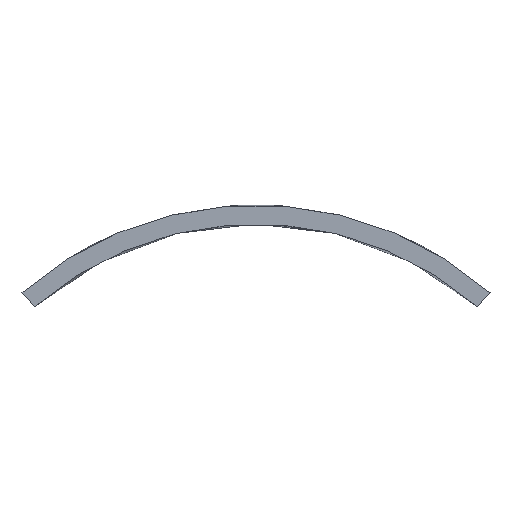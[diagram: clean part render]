
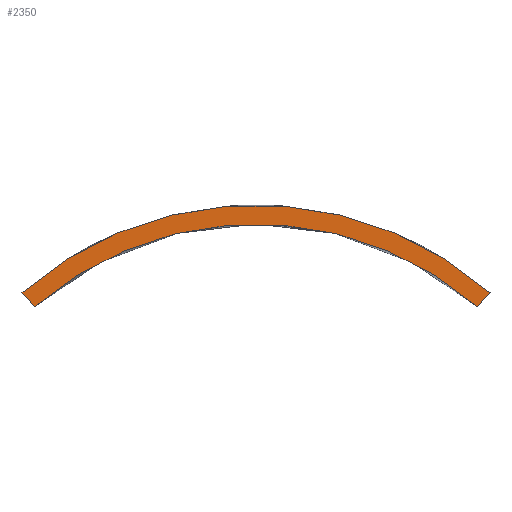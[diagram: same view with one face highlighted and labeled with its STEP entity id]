
A CAD part, left-side view. The second image highlights one B-rep face of the part: STEP entity #2350.
In plain terms, the highlighted planar face has unit normal (-1, 0, 0).
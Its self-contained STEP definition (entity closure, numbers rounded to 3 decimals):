
#21 = EDGE_CURVE('',#22,#24,#26,.T.);
#22 = VERTEX_POINT('',#23);
#23 = CARTESIAN_POINT('',(62.3,14.775,16.969));
#24 = VERTEX_POINT('',#25);
#25 = CARTESIAN_POINT('',(62.3,-14.775,16.969));
#26 = SURFACE_CURVE('',#27,(#32,#44),.PCURVE_S1.);
#27 = CIRCLE('',#28,22.5);
#28 = AXIS2_PLACEMENT_3D('',#29,#30,#31);
#29 = CARTESIAN_POINT('',(62.3,0.,0.));
#30 = DIRECTION('',(1.,0.,0.));
#31 = DIRECTION('',(-0.,1.,0.));
#32 = PCURVE('',#33,#38);
#33 = CYLINDRICAL_SURFACE('',#34,22.5);
#34 = AXIS2_PLACEMENT_3D('',#35,#36,#37);
#35 = CARTESIAN_POINT('',(47.,0.,0.));
#36 = DIRECTION('',(1.,0.,0.));
#37 = DIRECTION('',(-0.,1.,0.));
#38 = DEFINITIONAL_REPRESENTATION('',(#39),#43);
#39 = LINE('',#40,#41);
#40 = CARTESIAN_POINT('',(0.,15.3));
#41 = VECTOR('',#42,1.);
#42 = DIRECTION('',(1.,0.));
#43 = ( GEOMETRIC_REPRESENTATION_CONTEXT(2) 
PARAMETRIC_REPRESENTATION_CONTEXT() REPRESENTATION_CONTEXT('2D SPACE',''
  ) );
#44 = PCURVE('',#45,#50);
#45 = PLANE('',#46);
#46 = AXIS2_PLACEMENT_3D('',#47,#48,#49);
#47 = CARTESIAN_POINT('',(62.3,0.,0.));
#48 = DIRECTION('',(-1.,0.,0.));
#49 = DIRECTION('',(0.,-0.657,0.754));
#50 = DEFINITIONAL_REPRESENTATION('',(#51),#59);
#51 = ( BOUNDED_CURVE() B_SPLINE_CURVE(2,(#52,#53,#54,#55,#56,#57,#58),
.UNSPECIFIED.,.T.,.F.) B_SPLINE_CURVE_WITH_KNOTS((1,2,2,2,2,1),(
    -2.094,0.,2.094,4.189,6.283,
8.378),.UNSPECIFIED.) CURVE() GEOMETRIC_REPRESENTATION_ITEM() 
RATIONAL_B_SPLINE_CURVE((1.,0.5,1.,0.5,1.,0.5,1.)) REPRESENTATION_ITEM(
  '') );
#52 = CARTESIAN_POINT('',(-14.775,16.969));
#53 = CARTESIAN_POINT('',(14.616,42.56));
#54 = CARTESIAN_POINT('',(22.083,4.311));
#55 = CARTESIAN_POINT('',(29.55,-33.938));
#56 = CARTESIAN_POINT('',(-7.308,-21.28));
#57 = CARTESIAN_POINT('',(-44.166,-8.622));
#58 = CARTESIAN_POINT('',(-14.775,16.969));
#59 = ( GEOMETRIC_REPRESENTATION_CONTEXT(2) 
PARAMETRIC_REPRESENTATION_CONTEXT() REPRESENTATION_CONTEXT('2D SPACE',''
  ) );
#77 = PLANE('',#78);
#78 = AXIS2_PLACEMENT_3D('',#79,#80,#81);
#79 = CARTESIAN_POINT('',(213.1,0.,0.));
#80 = DIRECTION('',(-0.,0.754,0.657));
#81 = DIRECTION('',(0.,-0.657,0.754));
#372 = PLANE('',#373);
#373 = AXIS2_PLACEMENT_3D('',#374,#375,#376);
#374 = CARTESIAN_POINT('',(213.1,18.715,21.494));
#375 = DIRECTION('',(0.,-0.754,0.657));
#376 = DIRECTION('',(0.,-0.657,-0.754));
#1512 = CYLINDRICAL_SURFACE('',#1513,21.3);
#1513 = AXIS2_PLACEMENT_3D('',#1514,#1515,#1516);
#1514 = CARTESIAN_POINT('',(47.,0.,0.));
#1515 = DIRECTION('',(1.,0.,0.));
#1516 = DIRECTION('',(-0.,1.,0.));
#1576 = EDGE_CURVE('',#1577,#1579,#1581,.T.);
#1577 = VERTEX_POINT('',#1578);
#1578 = CARTESIAN_POINT('',(62.3,13.987,16.064));
#1579 = VERTEX_POINT('',#1580);
#1580 = CARTESIAN_POINT('',(62.3,-13.987,16.064));
#1581 = SURFACE_CURVE('',#1582,(#1587,#1594),.PCURVE_S1.);
#1582 = CIRCLE('',#1583,21.3);
#1583 = AXIS2_PLACEMENT_3D('',#1584,#1585,#1586);
#1584 = CARTESIAN_POINT('',(62.3,0.,0.));
#1585 = DIRECTION('',(1.,0.,0.));
#1586 = DIRECTION('',(-0.,1.,0.));
#1587 = PCURVE('',#1512,#1588);
#1588 = DEFINITIONAL_REPRESENTATION('',(#1589),#1593);
#1589 = LINE('',#1590,#1591);
#1590 = CARTESIAN_POINT('',(0.,15.3));
#1591 = VECTOR('',#1592,1.);
#1592 = DIRECTION('',(1.,0.));
#1593 = ( GEOMETRIC_REPRESENTATION_CONTEXT(2) 
PARAMETRIC_REPRESENTATION_CONTEXT() REPRESENTATION_CONTEXT('2D SPACE',''
  ) );
#1594 = PCURVE('',#45,#1595);
#1595 = DEFINITIONAL_REPRESENTATION('',(#1596),#1604);
#1596 = ( BOUNDED_CURVE() B_SPLINE_CURVE(2,(#1597,#1598,#1599,#1600,
#1601,#1602,#1603),.UNSPECIFIED.,.T.,.F.) B_SPLINE_CURVE_WITH_KNOTS((1,2
    ,2,2,2,1),(-2.094,0.,2.094,4.189,
6.283,8.378),.UNSPECIFIED.) CURVE() 
GEOMETRIC_REPRESENTATION_ITEM() RATIONAL_B_SPLINE_CURVE((1.,0.5,1.,0.5,
1.,0.5,1.)) REPRESENTATION_ITEM('') );
#1597 = CARTESIAN_POINT('',(-13.987,16.064));
#1598 = CARTESIAN_POINT('',(13.837,40.29));
#1599 = CARTESIAN_POINT('',(20.905,4.081));
#1600 = CARTESIAN_POINT('',(27.974,-32.128));
#1601 = CARTESIAN_POINT('',(-6.918,-20.145));
#1602 = CARTESIAN_POINT('',(-41.811,-8.162));
#1603 = CARTESIAN_POINT('',(-13.987,16.064));
#1604 = ( GEOMETRIC_REPRESENTATION_CONTEXT(2) 
PARAMETRIC_REPRESENTATION_CONTEXT() REPRESENTATION_CONTEXT('2D SPACE',''
  ) );
#2151 = EDGE_CURVE('',#22,#1577,#2152,.T.);
#2152 = SURFACE_CURVE('',#2153,(#2157,#2164),.PCURVE_S1.);
#2153 = LINE('',#2154,#2155);
#2154 = CARTESIAN_POINT('',(62.3,18.715,21.494));
#2155 = VECTOR('',#2156,1.);
#2156 = DIRECTION('',(0.,-0.657,-0.754));
#2157 = PCURVE('',#372,#2158);
#2158 = DEFINITIONAL_REPRESENTATION('',(#2159),#2163);
#2159 = LINE('',#2160,#2161);
#2160 = CARTESIAN_POINT('',(-0.,-150.8));
#2161 = VECTOR('',#2162,1.);
#2162 = DIRECTION('',(1.,0.));
#2163 = ( GEOMETRIC_REPRESENTATION_CONTEXT(2) 
PARAMETRIC_REPRESENTATION_CONTEXT() REPRESENTATION_CONTEXT('2D SPACE',''
  ) );
#2164 = PCURVE('',#45,#2165);
#2165 = DEFINITIONAL_REPRESENTATION('',(#2166),#2170);
#2166 = LINE('',#2167,#2168);
#2167 = CARTESIAN_POINT('',(3.921,28.229));
#2168 = VECTOR('',#2169,1.);
#2169 = DIRECTION('',(-0.138,-0.99));
#2170 = ( GEOMETRIC_REPRESENTATION_CONTEXT(2) 
PARAMETRIC_REPRESENTATION_CONTEXT() REPRESENTATION_CONTEXT('2D SPACE',''
  ) );
#2328 = EDGE_CURVE('',#1579,#24,#2329,.T.);
#2329 = SURFACE_CURVE('',#2330,(#2334,#2341),.PCURVE_S1.);
#2330 = LINE('',#2331,#2332);
#2331 = CARTESIAN_POINT('',(62.3,0.,0.));
#2332 = VECTOR('',#2333,1.);
#2333 = DIRECTION('',(0.,-0.657,0.754));
#2334 = PCURVE('',#77,#2335);
#2335 = DEFINITIONAL_REPRESENTATION('',(#2336),#2340);
#2336 = LINE('',#2337,#2338);
#2337 = CARTESIAN_POINT('',(0.,-150.8));
#2338 = VECTOR('',#2339,1.);
#2339 = DIRECTION('',(1.,0.));
#2340 = ( GEOMETRIC_REPRESENTATION_CONTEXT(2) 
PARAMETRIC_REPRESENTATION_CONTEXT() REPRESENTATION_CONTEXT('2D SPACE',''
  ) );
#2341 = PCURVE('',#45,#2342);
#2342 = DEFINITIONAL_REPRESENTATION('',(#2343),#2347);
#2343 = LINE('',#2344,#2345);
#2344 = CARTESIAN_POINT('',(0.,0.));
#2345 = VECTOR('',#2346,1.);
#2346 = DIRECTION('',(1.,0.));
#2347 = ( GEOMETRIC_REPRESENTATION_CONTEXT(2) 
PARAMETRIC_REPRESENTATION_CONTEXT() REPRESENTATION_CONTEXT('2D SPACE',''
  ) );
#2350 = ADVANCED_FACE('',(#2351),#45,.T.);
#2351 = FACE_BOUND('',#2352,.T.);
#2352 = EDGE_LOOP('',(#2353,#2354,#2355,#2356));
#2353 = ORIENTED_EDGE('',*,*,#1576,.T.);
#2354 = ORIENTED_EDGE('',*,*,#2328,.T.);
#2355 = ORIENTED_EDGE('',*,*,#21,.F.);
#2356 = ORIENTED_EDGE('',*,*,#2151,.T.);
